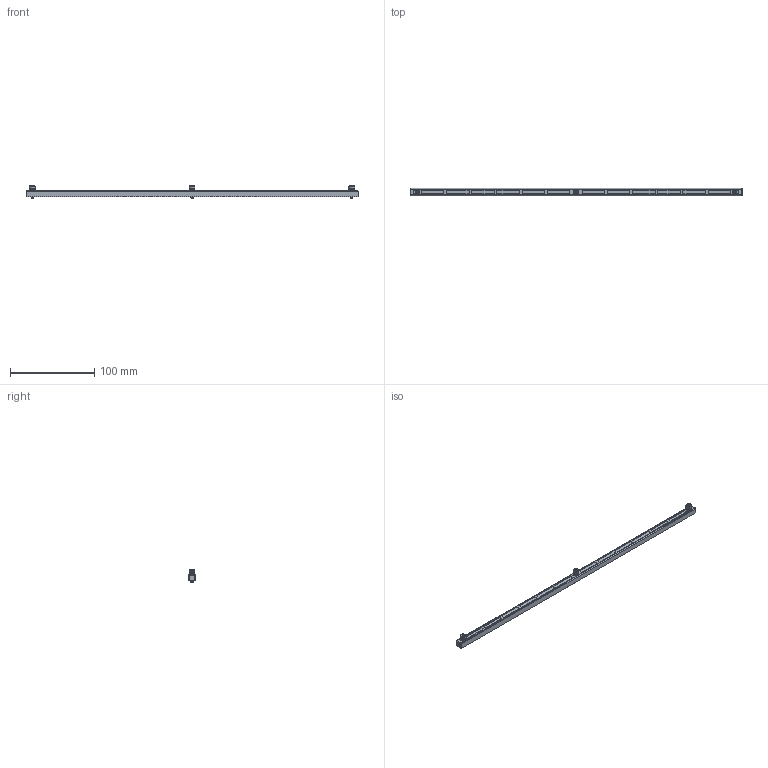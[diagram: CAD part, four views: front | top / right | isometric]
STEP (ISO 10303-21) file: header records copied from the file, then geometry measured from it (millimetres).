
FILE_DESCRIPTION((''),'2;1');
FILE_NAME('123400001976A_AIR-FILTER-BRK-02_ASM','2019-06-19T',('george_hsu'),(''),'PRO/ENGINEER BY PARAMETRIC TECHNOLOGY CORPORATION, 2012480','PRO/ENGINEER BY PARAMETRIC TECHNOLOGY CORPORATION, 2012480','');
FILE_SCHEMA(('AUTOMOTIVE_DESIGN { 1 0 10303 214 1 1 1 1 }'));
Length unit declared in the file: millimetre
Products named in the file (7): AIR-FILTER-BRACKET-02; SCREW-0133; SLEEVE; SPRING-P; 05-TB-0133-E-PRESS_ASM; AIR-FILTER-C1-02; 123400001976A_AIR-FILTER-BRK-02_ASM
Assembly tree (8 placements, depth 3):
  123400001976A_AIR-FILTER-BRK-02_ASM
    AIR-FILTER-BRACKET-02
    05-TB-0133-E-PRESS_ASM  x3
      SCREW-0133
      SLEEVE
      SPRING-P
    AIR-FILTER-C1-02
Bounding box: 395 x 8.5 x 15.2 mm (x, y, z)
Volume: 20999.3 mm3; surface area: 26132.6 mm2
Topology: 12 solids, 12 shells, 897 faces, 2512 edges, 1657 vertices
Faces by surface type: plane 532, cylinder 293, bspline 48, cone 24
Entity records: 18331 total; most frequent: CARTESIAN_POINT 6201, ORIENTED_EDGE 2040, DIRECTION 1878, EDGE_CURVE 1020, VECTOR 762, LINE 762, VERTEX_POINT 667, PRESENTATION_STYLE_ASSIGNMENT 661
